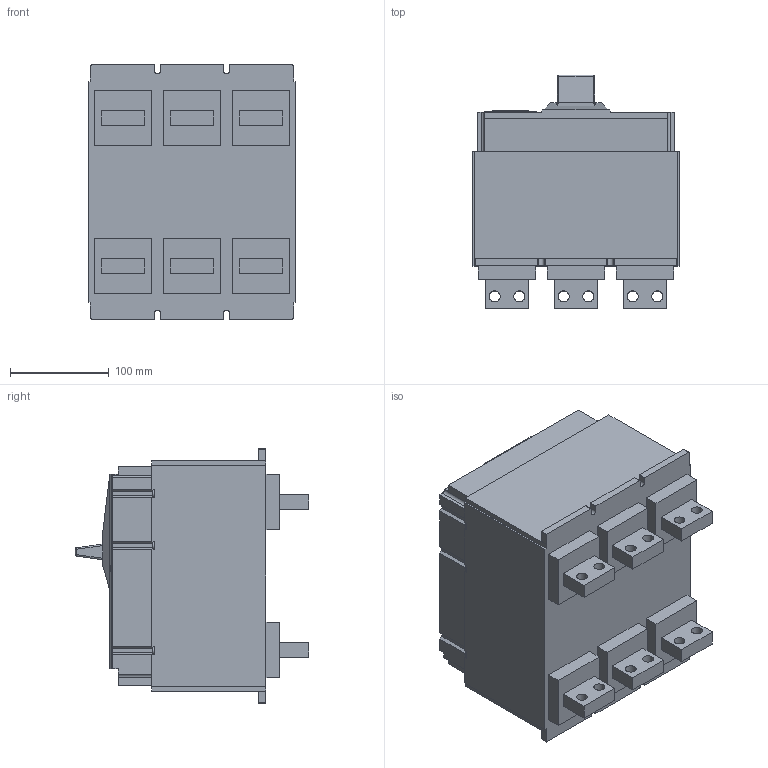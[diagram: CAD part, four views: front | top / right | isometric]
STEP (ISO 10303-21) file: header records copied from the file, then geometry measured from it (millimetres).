
FILE_DESCRIPTION(/* description */ ('','CAx-IF Rec.Pracs.---Representation and Presentation of Product Manufacturing Information (PMI)---3.8---2014-02-18'),/* implementation_level */ '2;1');
FILE_NAME(/* name */ 'E:\3D model\50-susol-1600af-iec-down-3p.stp',/* time_stamp */ '2017-11-09T15:00:09+03:00',/* author */ ('dobrin'),/* organization */ (''),/* preprocessor_version */ 'ST-DEVELOPER v16.13',/* originating_system */ 'Autodesk Inventor 2018',/* authorisation */ '');
FILE_SCHEMA (('AP242_MANAGED_MODEL_BASED_3D_ENGINEERING_MIM_LF { 1 0 10303 442 1 1 4 }'));
Length unit declared in the file: metre
Products named in the file (1): 50-susol-1600af-iec-down-3p
Bounding box: 210 x 237.1 x 258 mm (x, y, z)
Volume: 7902151.2 mm3; surface area: 296838.8 mm2
Topology: 1 solids, 1 shells, 445 faces, 1151 edges, 748 vertices
Faces by surface type: plane 379, cylinder 56, torus 6, sphere 4
Full cylindrical faces by diameter (mm): 7 x6, 11 x12
Entity records: 13411 total; most frequent: CARTESIAN_POINT 2346, ORIENTED_EDGE 2254, DIRECTION 2175, EDGE_CURVE 1127, LINE 1005, VECTOR 1005, VERTEX_POINT 748, AXIS2_PLACEMENT_3D 589
